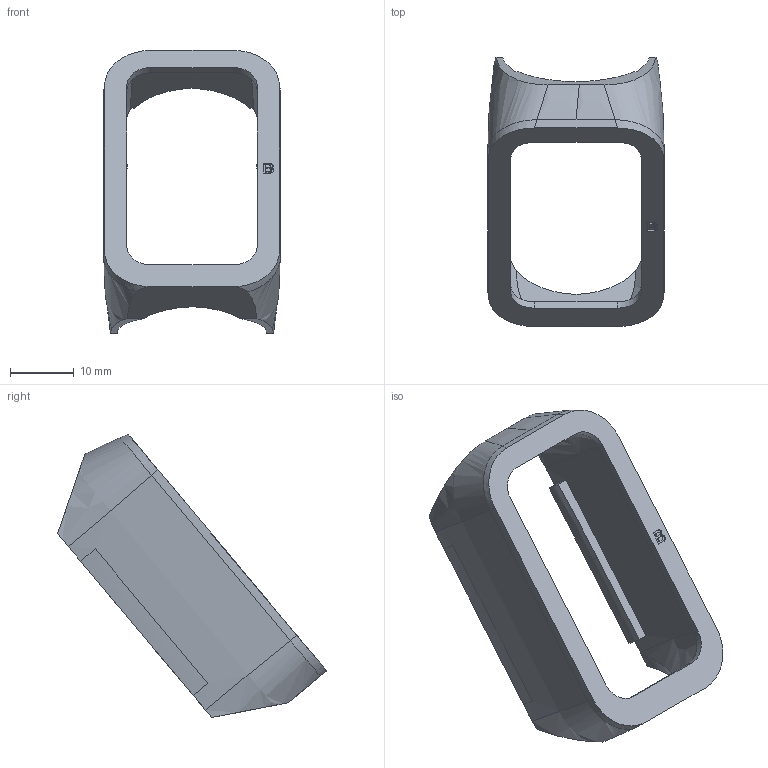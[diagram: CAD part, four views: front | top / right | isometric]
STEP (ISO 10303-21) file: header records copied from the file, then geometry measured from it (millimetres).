
FILE_DESCRIPTION(('Open CASCADE Model'),'2;1');
FILE_NAME('Open CASCADE Shape Model','1970-01-01T00:00:00',('Author'),( 'Open CASCADE'),'Open CASCADE STEP processor 7.8','Open CASCADE 7.8' ,'Unknown');
FILE_SCHEMA(('AUTOMOTIVE_DESIGN { 1 0 10303 214 1 1 1 1 }'));
Length unit declared in the file: millimetre
Products named in the file (2): Open CASCADE STEP translator 7.8 2; cover-retention-b
Assembly tree (1 placements, depth 2):
  Open CASCADE STEP translator 7.8 2
    cover-retention-b
Bounding box: 27.76 x 42.29 x 44.52 mm (x, y, z)
Volume: 3591.4 mm3; surface area: 5201.3 mm2
Topology: 1 solids, 1 shells, 95 faces, 268 edges, 178 vertices
Faces by surface type: bspline 45, extrusion 24, plane 22, cylinder 4
Entity records: 11763 total; most frequent: CARTESIAN_POINT 7655, B_SPLINE_CURVE_WITH_KNOTS 562, ORIENTED_EDGE 536, PCURVE 536, DEFINITIONAL_REPRESENTATION 536, DIRECTION 316, EDGE_CURVE 268, SURFACE_CURVE 268
